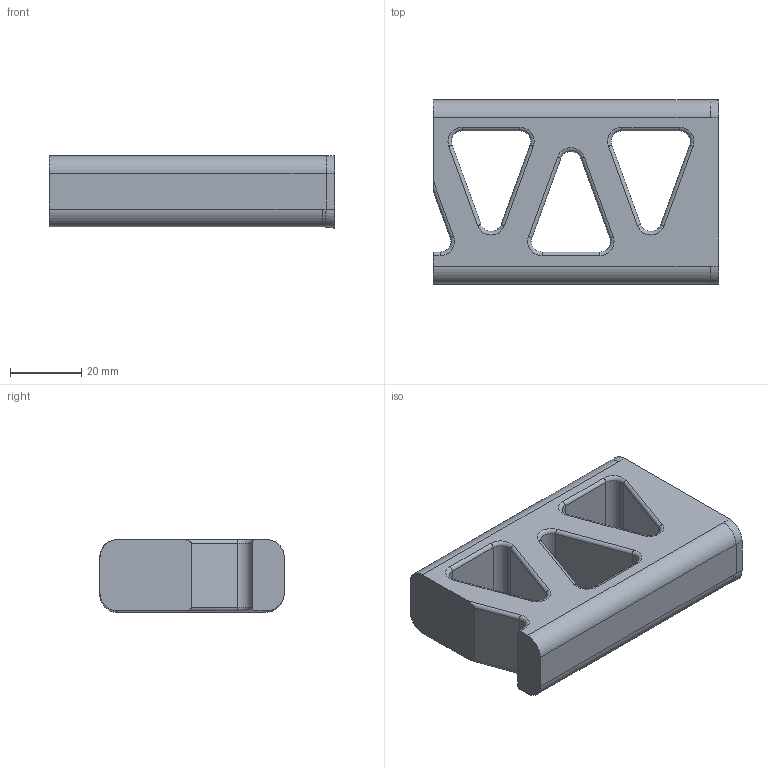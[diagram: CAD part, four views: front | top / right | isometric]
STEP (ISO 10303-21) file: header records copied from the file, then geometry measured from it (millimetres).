
FILE_DESCRIPTION (( 'STEP AP214' ), '1' );
FILE_NAME ('Brk_Rev_1_simple cut.STEP', '2025-02-03T12:13:13', ( '' ), ( '' ), 'SwSTEP 2.0', 'SolidWorks 2024', '' );
FILE_SCHEMA (( 'AUTOMOTIVE_DESIGN' ));
Length unit declared in the file: millimetre
Products named in the file (1): Brk_Rev_1_simple cut
Bounding box: 80 x 51.7 x 20.42 mm (x, y, z)
Volume: 55930.6 mm3; surface area: 15135.1 mm2
Topology: 1 solids, 1 shells, 84 faces, 199 edges, 117 vertices
Faces by surface type: cylinder 39, torus 24, plane 18, bspline 3
Entity records: 3477 total; most frequent: CARTESIAN_POINT 547, DIRECTION 453, ORIENTED_EDGE 398, EDGE_CURVE 199, AXIS2_PLACEMENT_3D 183, VERTEX_POINT 117, CIRCLE 101, EDGE_LOOP 90
